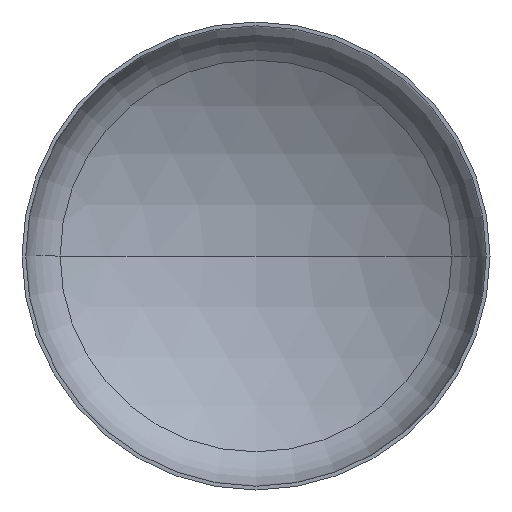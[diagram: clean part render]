
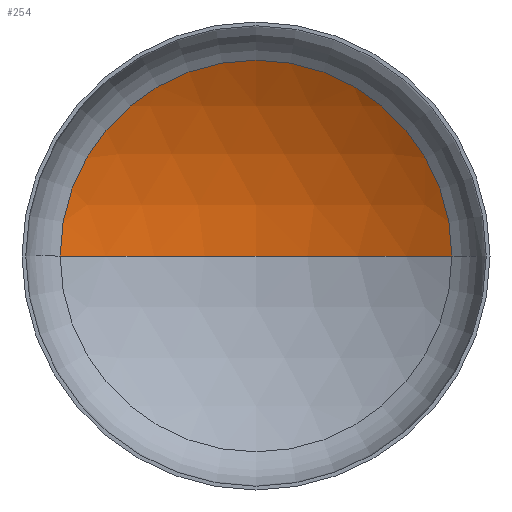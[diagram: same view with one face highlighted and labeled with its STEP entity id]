
A CAD part, front view. The second image highlights one B-rep face of the part: STEP entity #254.
In plain terms, the highlighted spherical face has radius 3040 mm.
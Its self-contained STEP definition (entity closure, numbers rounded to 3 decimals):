
#10 = EDGE_LOOP ( 'NONE', ( #111, #109, #46 ) ) ;
#11 = DIRECTION ( 'NONE',  ( 0., -1., 0. ) ) ;
#12 = VERTEX_POINT ( 'NONE', #273 ) ;
#18 = VERTEX_POINT ( 'NONE', #301 ) ;
#20 = DIRECTION ( 'NONE',  ( -1., 0., 0. ) ) ;
#40 = VERTEX_POINT ( 'NONE', #265 ) ;
#43 = AXIS2_PLACEMENT_3D ( 'NONE', #244, #246, #20 ) ;
#46 = ORIENTED_EDGE ( 'NONE', *, *, #159, .T. ) ;
#77 = AXIS2_PLACEMENT_3D ( 'NONE', #197, #214, #216 ) ;
#78 = AXIS2_PLACEMENT_3D ( 'NONE', #245, #385, #404 ) ;
#82 = AXIS2_PLACEMENT_3D ( 'NONE', #172, #11, #122 ) ;
#109 = ORIENTED_EDGE ( 'NONE', *, *, #163, .T. ) ;
#111 = ORIENTED_EDGE ( 'NONE', *, *, #165, .F. ) ;
#122 = DIRECTION ( 'NONE',  ( 1., 0., 0. ) ) ;
#159 = EDGE_CURVE ( 'NONE', #40, #12, #353, .T. ) ;
#163 = EDGE_CURVE ( 'NONE', #18, #40, #170, .T. ) ;
#165 = EDGE_CURVE ( 'NONE', #18, #12, #344, .T. ) ;
#170 = CIRCLE ( 'NONE', #78, 3040. ) ;
#172 = CARTESIAN_POINT ( 'NONE',  ( 0., 598.61, 0. ) ) ;
#197 = CARTESIAN_POINT ( 'NONE',  ( 0., -1992.455, 0. ) ) ;
#214 = DIRECTION ( 'NONE',  ( 0., 0., 1. ) ) ;
#216 = DIRECTION ( 'NONE',  ( 1., 0., 0. ) ) ;
#226 = SPHERICAL_SURFACE ( 'NONE', #43, 3040. ) ;
#244 = CARTESIAN_POINT ( 'NONE',  ( 0., -1992.455, 0. ) ) ;
#245 = CARTESIAN_POINT ( 'NONE',  ( 0., -1992.455, 0. ) ) ;
#246 = DIRECTION ( 'NONE',  ( 0., 0., -1. ) ) ;
#254 = ADVANCED_FACE ( 'NONE', ( #274 ), #226, .F. ) ;
#265 = CARTESIAN_POINT ( 'NONE',  ( 1589.963, 598.61, 0. ) ) ;
#273 = CARTESIAN_POINT ( 'NONE',  ( -1589.963, 598.61, 0. ) ) ;
#274 = FACE_OUTER_BOUND ( 'NONE', #10, .T. ) ;
#301 = CARTESIAN_POINT ( 'NONE',  ( 0., 1047.545, 0. ) ) ;
#344 = CIRCLE ( 'NONE', #77, 3040. ) ;
#353 = CIRCLE ( 'NONE', #82, 1589.963 ) ;
#385 = DIRECTION ( 'NONE',  ( 0., 0., -1. ) ) ;
#404 = DIRECTION ( 'NONE',  ( -1., 0., 0. ) ) ;
